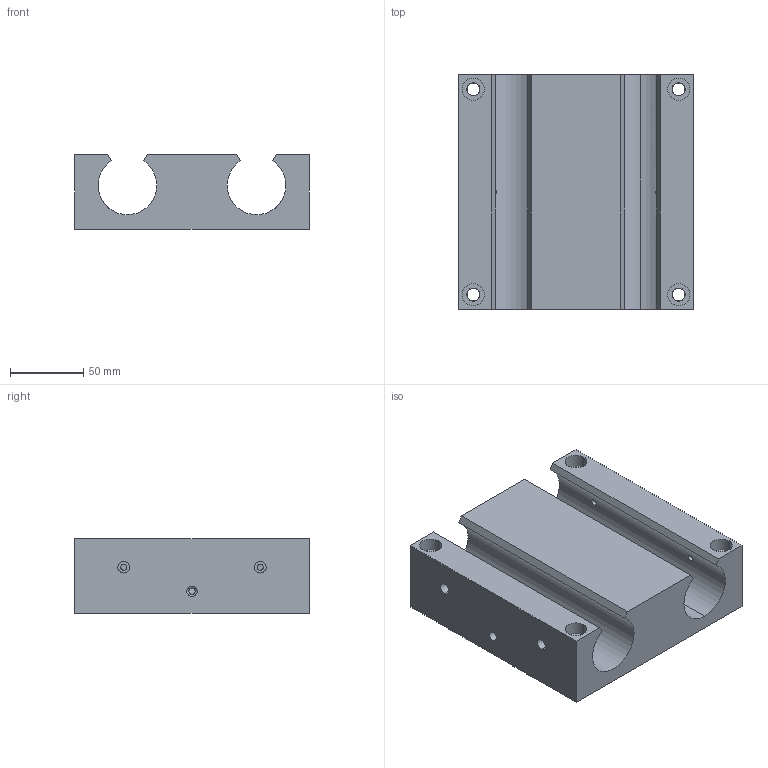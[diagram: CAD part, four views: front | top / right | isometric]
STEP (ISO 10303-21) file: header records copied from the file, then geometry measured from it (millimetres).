
FILE_DESCRIPTION (( 'STEP AP214' ), '1' );
FILE_NAME ('KQSO-25.step', '2020-03-04T13:36:02', ( '' ), ( '' ), 'SwSTEP 2.0', 'SolidWorks 2019', '' );
FILE_SCHEMA (( 'AUTOMOTIVE_DESIGN' ));
Length unit declared in the file: millimetre
Products named in the file (1): KQSO-25
Bounding box: 160 x 160 x 51 mm (x, y, z)
Volume: 865572.2 mm3; surface area: 113696.9 mm2
Topology: 1 solids, 1 shells, 85 faces, 201 edges, 129 vertices
Faces by surface type: cylinder 53, plane 24, cone 8
Entity records: 3059 total; most frequent: CARTESIAN_POINT 742, DIRECTION 455, ORIENTED_EDGE 398, EDGE_CURVE 199, AXIS2_PLACEMENT_3D 182, VERTEX_POINT 129, EDGE_LOOP 118, CIRCLE 96
